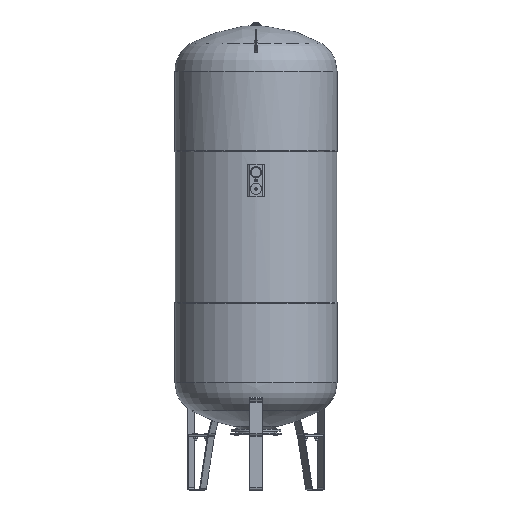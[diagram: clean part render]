
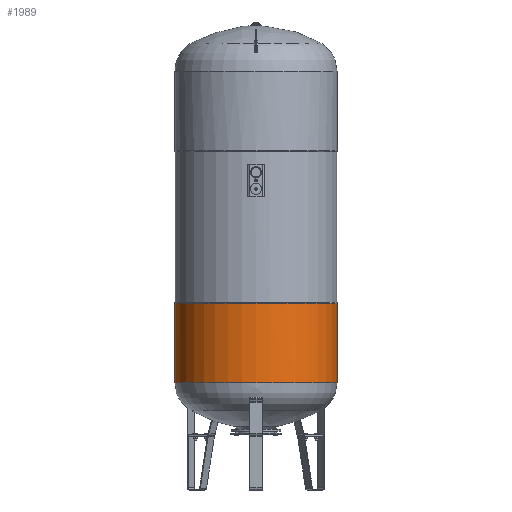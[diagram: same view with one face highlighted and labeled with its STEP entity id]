
A CAD part, front view. The second image highlights one B-rep face of the part: STEP entity #1989.
In plain terms, the highlighted cylindrical face has radius 390 mm (diameter 780 mm), a full revolution.
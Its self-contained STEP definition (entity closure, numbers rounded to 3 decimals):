
#1989=ADVANCED_FACE('',(#8717,#8719),#8721,.T.);
#8717=FACE_BOUND('',#8718,.T.);
#8718=EDGE_LOOP('',(#28472,#28473,#28474));
#8719=FACE_BOUND('',#8720,.T.);
#8720=EDGE_LOOP('',(#28475,#28476,#28477));
#8721=CYLINDRICAL_SURFACE('',#8722,390.);
#8722=AXIS2_PLACEMENT_3D('',#8723,#8724,#8725);
#8723=CARTESIAN_POINT('',(0.,0.,-555.273));
#8724=DIRECTION('',(0.,0.,-1.));
#8725=DIRECTION('',(0.,-1.,0.));
#28472=ORIENTED_EDGE('',*,*,#31979,.F.);
#28473=ORIENTED_EDGE('',*,*,#31980,.F.);
#28474=ORIENTED_EDGE('',*,*,#31981,.F.);
#28475=ORIENTED_EDGE('',*,*,#31982,.T.);
#28476=ORIENTED_EDGE('',*,*,#31983,.T.);
#28477=ORIENTED_EDGE('',*,*,#31984,.T.);
#31979=EDGE_CURVE('',#34615,#34616,#34617,.T.);
#31980=EDGE_CURVE('',#34618,#34615,#34619,.T.);
#31981=EDGE_CURVE('',#34616,#34618,#34620,.T.);
#31982=EDGE_CURVE('',#34621,#34622,#34623,.T.);
#31983=EDGE_CURVE('',#34622,#34624,#34625,.T.);
#31984=EDGE_CURVE('',#34624,#34621,#34626,.T.);
#34615=VERTEX_POINT('',#43669);
#34616=VERTEX_POINT('',#43670);
#34617=CIRCLE('',#43671,390.);
#34618=VERTEX_POINT('',#43675);
#34619=CIRCLE('',#43676,390.);
#34620=CIRCLE('',#43680,390.);
#34621=VERTEX_POINT('',#43684);
#34622=VERTEX_POINT('',#43685);
#34623=CIRCLE('',#43686,390.);
#34624=VERTEX_POINT('',#43690);
#34625=CIRCLE('',#43691,390.);
#34626=CIRCLE('',#43695,390.);
#43669=CARTESIAN_POINT('',(0.,390.,-746.758));
#43670=CARTESIAN_POINT('',(15.774,389.681,-746.758));
#43671=AXIS2_PLACEMENT_3D('',#43672,#43673,#43674);
#43672=CARTESIAN_POINT('',(0.,0.,-746.758));
#43673=DIRECTION('',(0.,0.,-1.));
#43674=DIRECTION('',(0.,1.,0.));
#43675=CARTESIAN_POINT('',(0.,-390.,-746.758));
#43676=AXIS2_PLACEMENT_3D('',#43677,#43678,#43679);
#43677=CARTESIAN_POINT('',(0.,0.,-746.758));
#43678=DIRECTION('',(0.,0.,-1.));
#43679=DIRECTION('',(0.,-1.,0.));
#43680=AXIS2_PLACEMENT_3D('',#43681,#43682,#43683);
#43681=CARTESIAN_POINT('',(0.,0.,-746.758));
#43682=DIRECTION('',(0.,0.,-1.));
#43683=DIRECTION('',(0.04,0.999,0.));
#43684=CARTESIAN_POINT('',(0.,390.,-364.462));
#43685=CARTESIAN_POINT('',(0.,-390.,-364.462));
#43686=AXIS2_PLACEMENT_3D('',#43687,#43688,#43689);
#43687=CARTESIAN_POINT('',(0.,0.,-364.462));
#43688=DIRECTION('',(0.,0.,-1.));
#43689=DIRECTION('',(0.,1.,0.));
#43690=CARTESIAN_POINT('',(-389.998,1.386,-364.462));
#43691=AXIS2_PLACEMENT_3D('',#43692,#43693,#43694);
#43692=CARTESIAN_POINT('',(0.,0.,-364.462));
#43693=DIRECTION('',(0.,0.,-1.));
#43694=DIRECTION('',(0.,-1.,0.));
#43695=AXIS2_PLACEMENT_3D('',#43696,#43697,#43698);
#43696=CARTESIAN_POINT('',(0.,0.,-364.462));
#43697=DIRECTION('',(0.,0.,-1.));
#43698=DIRECTION('',(-1.,0.004,0.));
